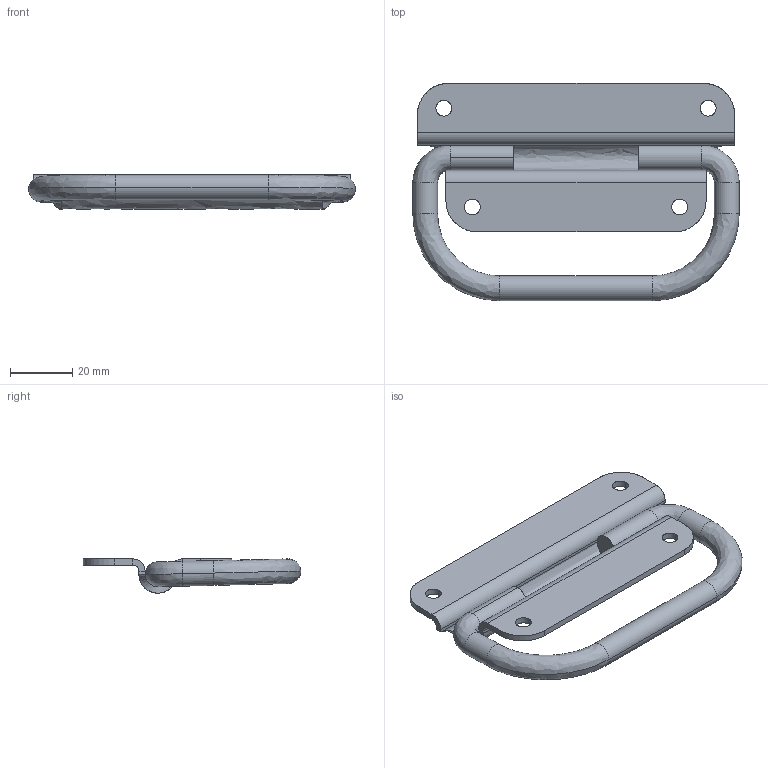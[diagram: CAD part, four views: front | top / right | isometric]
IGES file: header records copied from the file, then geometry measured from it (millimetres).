
Start section: SolidWorks IGES file using analytic representation for surfaces
Global section: file name: C:\Users\cbrechard\Desktop\PO 334.IGS; native system: SolidWorks 2017; preprocessor: SolidWorks 2017; author: cbrechard; date: 190904.154126; units: millimetre
Bounding box: 105 x 69.94 x 11.02 mm (x, y, z)
Surface area: 16541 mm2 (no closed solid volume)
Topology: 0 solids, 0 shells, 66 faces, 780 edges, 780 vertices
Faces by surface type: bspline 36, revolution 30
